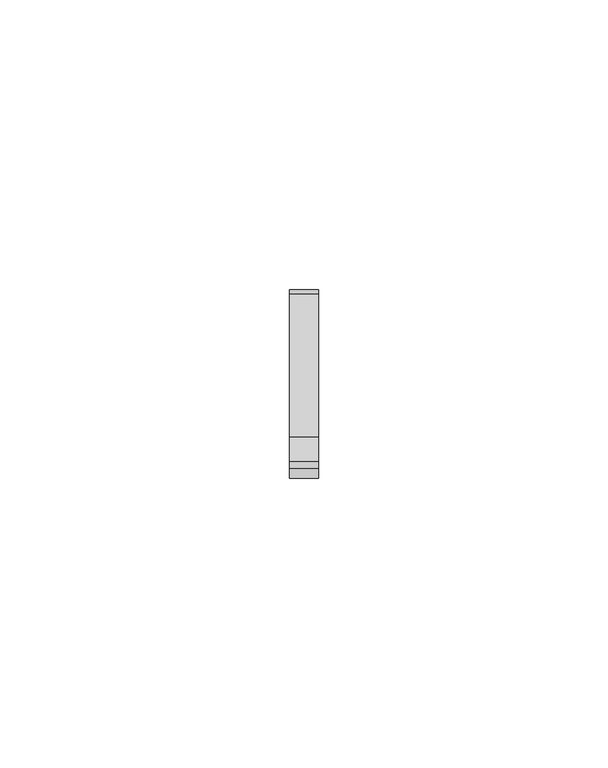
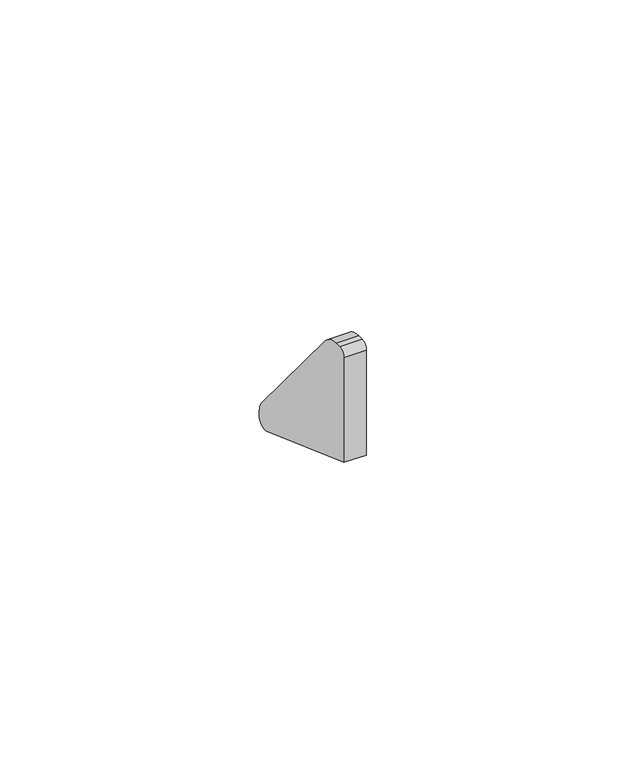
"""IFC4 building model written with IfcOpenShell, lengths in millimetres: proxy geometry, Odbojnik przyścienny K102 : Odbojnik przyścienny K102."""

from ifc_helpers import new_model, si_unit, point, frame, frame_2d, origin, place, context, project, spatial, polyline, circle_curve, trimmed, segment, composite_curve, outline, extrude, source, transform, mapped, element, save


def generic_models_3ce2d982(model_context):
    return source(origin(), model_context, "Body", "SweptSolid", [
        extrude(outline(composite_curve([segment(polyline([(51.0156424, -18.1149957), (51.0156424, -19.3800797)]), True, "CONTINUOUS"), segment(trimmed(circle_curve(frame_2d((48.9515319, -19.3800797)), 2.0641105), [point((51.0156424, -19.3800797))], [point((48.2523394, -21.3221616))], False, "CARTESIAN"), True, "CONTINUOUS"), segment(polyline([(48.2523394, -21.3221616), (18.4121459, -10.5790309), (18.4121459, 14.0520633)]), True, "CONTINUOUS"), segment(trimmed(circle_curve(frame_2d((20.050721, 14.0520633)), 1.6385751), [point((18.4121459, 14.0520633))], [point((20.050721, 15.6906384))], False, "CARTESIAN"), True, "CONTINUOUS"), segment(polyline([(20.050721, 15.6906384), (21.3090654, 15.6906384)]), True, "CONTINUOUS"), segment(trimmed(circle_curve(frame_2d((21.3090654, 10.1622663)), 5.5283721), [point((21.3090654, 15.6906384))], [point((25.5578471, 13.6993204))], False, "CARTESIAN"), True, "CONTINUOUS"), segment(polyline([(25.5578471, 13.6993204), (50.2261979, -15.9328067)]), True, "CONTINUOUS"), segment(trimmed(circle_curve(frame_2d((47.6049078, -18.1149957)), 3.4107347), [point((50.2261979, -15.9328067))], [point((51.0156424, -18.1149957))], False, "CARTESIAN"), True, "CONTINUOUS")], self_intersect=False)), frame((-2.5, 0.0, 0.0), z_axis=(1.0, 0.0, 0.0), x_axis=(0.0, 1.0, 0.0)), (0.0, 0.0, 1.0), 5.0),
    ])


if __name__ == "__main__":
    model = new_model("IFC4")
    model_context = context("Model", 3, world=origin())
    ifc_project = project(units=[si_unit("LENGTHUNIT", "METRE", prefix="MILLI")], contexts=[model_context])
    site = spatial("IfcSite", under=ifc_project)
    building = spatial("IfcBuilding", under=site)
    placement = place(None, origin())
    generic_models_shape = generic_models_3ce2d982(model_context)
    element("IfcBuildingElementProxy", 1, Name="Odbojnik przyścienny K102 : Odbojnik przyścienny K102", ObjectType="Odbojnik przyścienny K102 : Odbojnik przyścienny K102", at=placement, inside=building, context=model_context, shape_type="MappedRepresentation", body=[
        mapped(generic_models_shape, transform((0.0, 0.0, 0.0), x_axis=(1.0, 0.0, 0.0), y_axis=(0.0, 1.0, 0.0), z_axis=(0.0, 0.0, 1.0))),
    ])
    save(model, "model.ifc")
